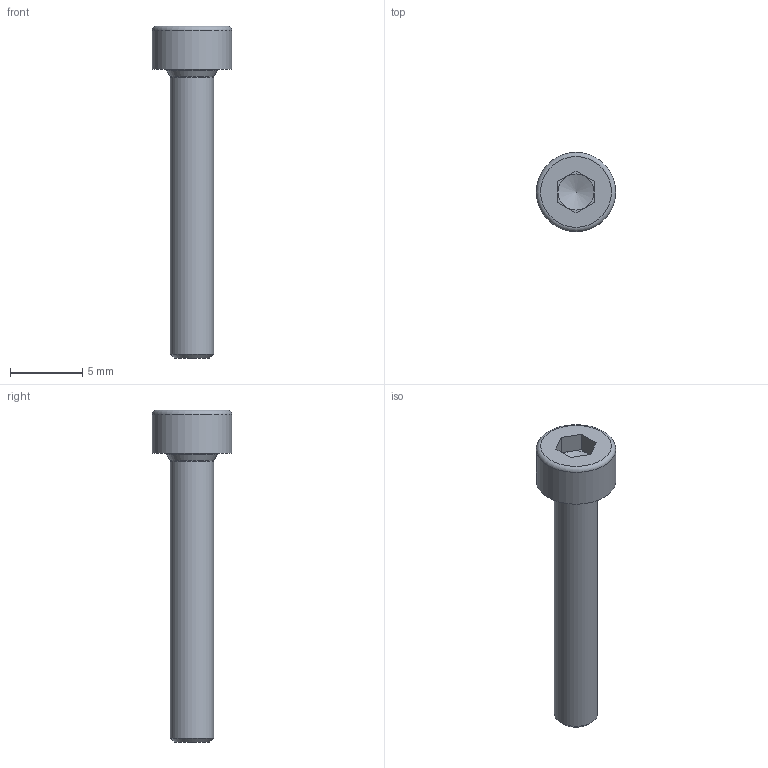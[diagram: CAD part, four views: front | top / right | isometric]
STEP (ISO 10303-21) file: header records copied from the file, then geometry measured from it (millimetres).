
FILE_DESCRIPTION(/* description */ ('STEP AP242 Edition 2','CAx-IF Rec.Pracs.---Representation and Presentation of Product Manufacturing Information (PMI)---4.0---2014-10-13','CAx-IF Rec.Pracs.---3D Tessellated Geometry---0.4---2014-09-14','2;1','CAx-IF Rec.Pracs.---User Defined Attributes---1.5---2016-08-15'),/* implementation_level */ '2;1');
FILE_NAME(/* name */ 'Assy_ForMFG - Hex socket head cap screw M3x0.50 x 20 (6)',/* time_stamp */ '2026-05-15T19:56:13Z',/* author */ (''),/* organization */ (''),/* preprocessor_version */ 'ST-DEVELOPER v20',/* originating_system */ 'ONSHAPE BY PTC INC, 1.215',/* authorisation */ ' ');
FILE_SCHEMA (('AP242_MANAGED_MODEL_BASED_3D_ENGINEERING_MIM_LF { 1 0 10303 442 3 1 4 }'));
Length unit declared in the file: metre
Products named in the file (1): Hex socket head cap screw M3x0.50 x 20
Bounding box: 5.5 x 5.5 x 23 mm (x, y, z)
Volume: 205 mm3; surface area: 293.7 mm2
Topology: 1 solids, 1 shells, 23 faces, 49 edges, 29 vertices
Faces by surface type: plane 15, torus 3, cone 3, cylinder 2
Full cylindrical faces by diameter (mm): 3 x1, 5.5 x1
Entity records: 578 total; most frequent: DIRECTION 102, CARTESIAN_POINT 91, ORIENTED_EDGE 78, EDGE_CURVE 39, AXIS2_PLACEMENT_3D 39, FACE_BOUND 33, EDGE_LOOP 32, VERTEX_POINT 28
